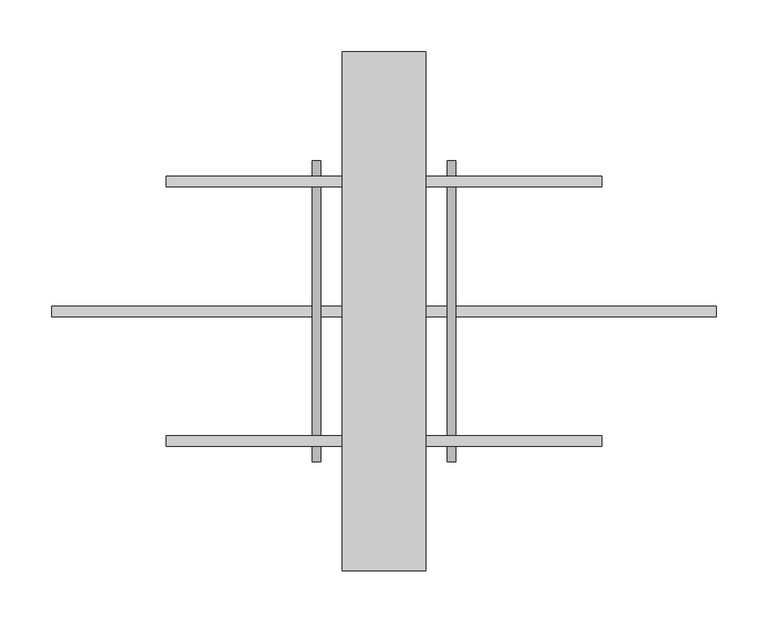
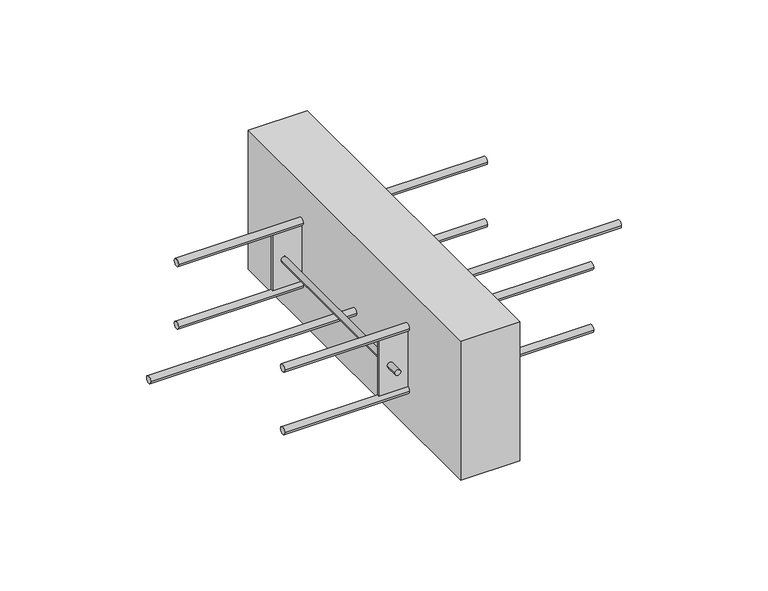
"""IFC4 building model written with IfcOpenShell, lengths in millimetres: proxy geometry, ACINOXplus_Typenreihe_Q : QA+ N."""

from ifc_helpers import new_model, si_unit, point, frame, frame_2d, origin, place, context, project, spatial, polyline, circle_curve, trimmed, segment, composite_curve, outline, extrude, source, transform, mapped, element, save


def generic_models_762fb8db(model_context):
    return source(origin(), model_context, "Body", "SweptSolid", [
        extrude(outline(composite_curve([segment(trimmed(circle_curve(frame_2d((0.0, -109.0)), 5.0), [point((-5.0, -109.0))], [point((5.0, -109.0))], False, "CARTESIAN"), True, "CONTINUOUS"), segment(trimmed(circle_curve(frame_2d((0.0, -109.0)), 5.0), [point((5.0, -109.0))], [point((-5.0, -109.0))], False, "CARTESIAN"), True, "CONTINUOUS")], self_intersect=False)), frame((-320.0, 0.0, 0.0), z_axis=(1.0, 0.0, 0.0), x_axis=(0.0, 1.0, 0.0)), (0.0, 0.0, 1.0), 640.0),
        extrude(outline(polyline([(40.0, 250.0), (40.0, -250.0), (-40.0, -250.0), (-40.0, 250.0), (40.0, 250.0)])), frame((0.0, 0.0, -200.0), z_axis=(0.0, 0.0, 1.0), x_axis=(1.0, 0.0, 0.0)), (0.0, 0.0, 1.0), 200.0),
        extrude(outline(polyline([(80.0, -123.5), (80.0, -126.5), (-80.0, -126.5), (-80.0, -123.5), (80.0, -123.5)])), frame((0.0, 0.0, -140.0), z_axis=(0.0, 0.0, 1.0), x_axis=(1.0, 0.0, 0.0)), (0.0, 0.0, 1.0), 80.0),
        extrude(outline(polyline([(80.0, 126.5), (80.0, 123.5), (-80.0, 123.5), (-80.0, 126.5), (80.0, 126.5)])), frame((0.0, 0.0, -140.0), z_axis=(0.0, 0.0, 1.0), x_axis=(1.0, 0.0, 0.0)), (0.0, 0.0, 1.0), 80.0),
        extrude(outline(composite_curve([segment(trimmed(circle_curve(frame_2d((-100.0, -65.0)), 4.0), [point((-100.0, -69.0))], [point((-100.0, -61.0))], False, "CARTESIAN"), True, "CONTINUOUS"), segment(trimmed(circle_curve(frame_2d((-100.0, -65.0)), 4.0), [point((-100.0, -61.0))], [point((-100.0, -69.0))], False, "CARTESIAN"), True, "CONTINUOUS")], self_intersect=False)), frame((0.0, 126.5, 0.0), z_axis=(0.0, 1.0, 0.0), x_axis=(0.0, 0.0, 1.0)), (0.0, 0.0, 1.0), 18.5),
        extrude(outline(composite_curve([segment(trimmed(circle_curve(frame_2d((-100.0, -65.0)), 4.0), [point((-100.0, -61.0))], [point((-100.0, -69.0))], False, "CARTESIAN"), True, "CONTINUOUS"), segment(trimmed(circle_curve(frame_2d((-100.0, -65.0)), 4.0), [point((-100.0, -69.0))], [point((-100.0, -61.0))], False, "CARTESIAN"), True, "CONTINUOUS")], self_intersect=False)), frame((0.0, -145.0, 0.0), z_axis=(0.0, 1.0, 0.0), x_axis=(0.0, 0.0, 1.0)), (0.0, 0.0, 1.0), 18.5),
        extrude(outline(composite_curve([segment(trimmed(circle_curve(frame_2d((-100.0, -65.0)), 4.0), [point((-100.0, -69.0))], [point((-100.0, -61.0))], False, "CARTESIAN"), True, "CONTINUOUS"), segment(trimmed(circle_curve(frame_2d((-100.0, -65.0)), 4.0), [point((-100.0, -61.0))], [point((-100.0, -69.0))], False, "CARTESIAN"), True, "CONTINUOUS")], self_intersect=False)), frame((0.0, -123.5, 0.0), z_axis=(0.0, 1.0, 0.0), x_axis=(0.0, 0.0, 1.0)), (0.0, 0.0, 1.0), 247.0),
        extrude(outline(composite_curve([segment(trimmed(circle_curve(frame_2d((-100.0, 65.0)), 4.0), [point((-100.0, 61.0))], [point((-100.0, 69.0))], False, "CARTESIAN"), True, "CONTINUOUS"), segment(trimmed(circle_curve(frame_2d((-100.0, 65.0)), 4.0), [point((-100.0, 69.0))], [point((-100.0, 61.0))], False, "CARTESIAN"), True, "CONTINUOUS")], self_intersect=False)), frame((0.0, 126.5, 0.0), z_axis=(0.0, 1.0, 0.0), x_axis=(0.0, 0.0, 1.0)), (0.0, 0.0, 1.0), 18.5),
        extrude(outline(composite_curve([segment(trimmed(circle_curve(frame_2d((-100.0, 65.0)), 4.0), [point((-100.0, 69.0))], [point((-100.0, 61.0))], False, "CARTESIAN"), True, "CONTINUOUS"), segment(trimmed(circle_curve(frame_2d((-100.0, 65.0)), 4.0), [point((-100.0, 61.0))], [point((-100.0, 69.0))], False, "CARTESIAN"), True, "CONTINUOUS")], self_intersect=False)), frame((0.0, -145.0, 0.0), z_axis=(0.0, 1.0, 0.0), x_axis=(0.0, 0.0, 1.0)), (0.0, 0.0, 1.0), 18.5),
        extrude(outline(composite_curve([segment(trimmed(circle_curve(frame_2d((-100.0, 65.0)), 4.0), [point((-100.0, 61.0))], [point((-100.0, 69.0))], False, "CARTESIAN"), True, "CONTINUOUS"), segment(trimmed(circle_curve(frame_2d((-100.0, 65.0)), 4.0), [point((-100.0, 69.0))], [point((-100.0, 61.0))], False, "CARTESIAN"), True, "CONTINUOUS")], self_intersect=False)), frame((0.0, -123.5, 0.0), z_axis=(0.0, 1.0, 0.0), x_axis=(0.0, 0.0, 1.0)), (0.0, 0.0, 1.0), 247.0),
        extrude(outline(composite_curve([segment(trimmed(circle_curve(frame_2d((125.0, -145.0)), 5.0), [point((120.0, -145.0))], [point((130.0, -145.0))], False, "CARTESIAN"), True, "CONTINUOUS"), segment(trimmed(circle_curve(frame_2d((125.0, -145.0)), 5.0), [point((130.0, -145.0))], [point((120.0, -145.0))], False, "CARTESIAN"), True, "CONTINUOUS")], self_intersect=False)), frame((-210.0, 0.0, 0.0), z_axis=(1.0, 0.0, 0.0), x_axis=(0.0, 1.0, 0.0)), (0.0, 0.0, 1.0), 420.0),
        extrude(outline(composite_curve([segment(trimmed(circle_curve(frame_2d((-125.0, -145.0)), 5.0), [point((-130.0, -145.0))], [point((-120.0, -145.0))], False, "CARTESIAN"), True, "CONTINUOUS"), segment(trimmed(circle_curve(frame_2d((-125.0, -145.0)), 5.0), [point((-120.0, -145.0))], [point((-130.0, -145.0))], False, "CARTESIAN"), True, "CONTINUOUS")], self_intersect=False)), frame((-210.0, 0.0, 0.0), z_axis=(1.0, 0.0, 0.0), x_axis=(0.0, 1.0, 0.0)), (0.0, 0.0, 1.0), 420.0),
        extrude(outline(composite_curve([segment(trimmed(circle_curve(frame_2d((125.0, -55.0)), 5.0), [point((120.0, -55.0))], [point((130.0, -55.0))], False, "CARTESIAN"), True, "CONTINUOUS"), segment(trimmed(circle_curve(frame_2d((125.0, -55.0)), 5.0), [point((130.0, -55.0))], [point((120.0, -55.0))], False, "CARTESIAN"), True, "CONTINUOUS")], self_intersect=False)), frame((-210.0, 0.0, 0.0), z_axis=(1.0, 0.0, 0.0), x_axis=(0.0, 1.0, 0.0)), (0.0, 0.0, 1.0), 420.0),
        extrude(outline(composite_curve([segment(trimmed(circle_curve(frame_2d((-125.0, -55.0)), 5.0), [point((-130.0, -55.0))], [point((-120.0, -55.0))], False, "CARTESIAN"), True, "CONTINUOUS"), segment(trimmed(circle_curve(frame_2d((-125.0, -55.0)), 5.0), [point((-120.0, -55.0))], [point((-130.0, -55.0))], False, "CARTESIAN"), True, "CONTINUOUS")], self_intersect=False)), frame((-210.0, 0.0, 0.0), z_axis=(1.0, 0.0, 0.0), x_axis=(0.0, 1.0, 0.0)), (0.0, 0.0, 1.0), 420.0),
    ])


if __name__ == "__main__":
    model = new_model("IFC4")
    model_context = context("Model", 3, world=origin())
    ifc_project = project(units=[si_unit("LENGTHUNIT", "METRE", prefix="MILLI")], contexts=[model_context])
    site = spatial("IfcSite", under=ifc_project)
    building = spatial("IfcBuilding", under=site)
    placement = place(None, origin())
    generic_models_shape = generic_models_762fb8db(model_context)
    element("IfcBuildingElementProxy", 1, Name="ACINOXplus_Typenreihe_Q : QA+ N", ObjectType="ACINOXplus_Typenreihe_Q : QA+ N", at=placement, inside=building, context=model_context, shape_type="MappedRepresentation", body=[
        mapped(generic_models_shape, transform((0.0, 0.0, 0.0), x_axis=(1.0, 0.0, 0.0), y_axis=(0.0, 1.0, 0.0), z_axis=(0.0, 0.0, 1.0))),
    ])
    save(model, "model.ifc")
